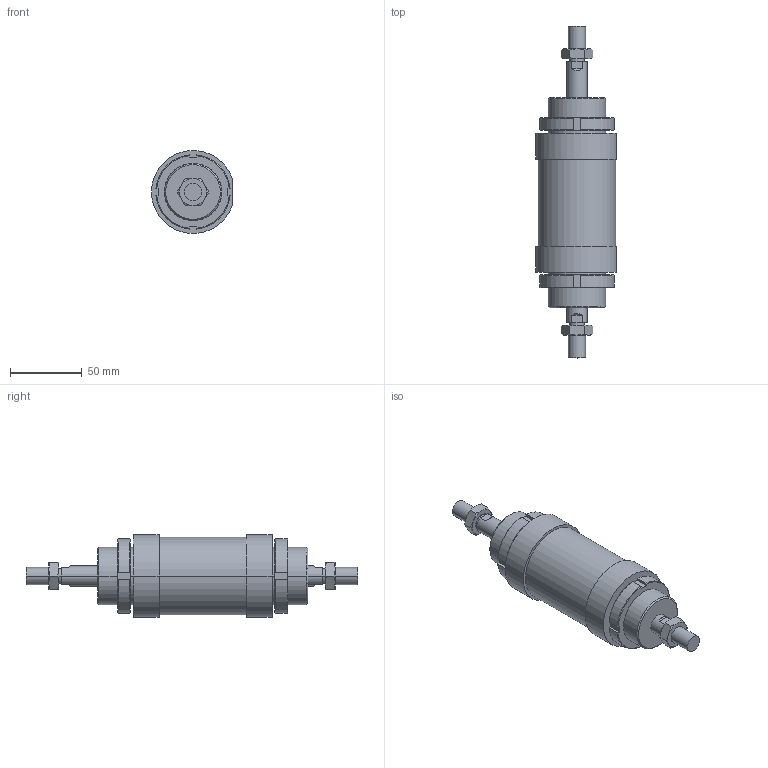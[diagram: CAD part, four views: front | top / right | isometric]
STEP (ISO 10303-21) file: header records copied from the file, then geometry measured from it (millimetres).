
FILE_DESCRIPTION((''),'2;1');
FILE_NAME('I:\DOC-EDP\Lib-3d\1200\CILINDRI\1262\1262_50_0015.stp','2003-04-02T19:14:51',('maffial1'),(''),'Autodesk Inventor (R) 6.0','Autodesk Inventor (R) 6.0','');
FILE_SCHEMA(('AUTOMOTIVE_DESIGN { 1 0 10303 214 1 1 1 1 }'));
Length unit declared in the file: millimetre
Products named in the file (5): 1262_50_0015; S1262_50_15; C1262_50_15; 1200_50_05; 1200_50_06
Assembly tree (6 placements, depth 2):
  1262_50_0015
    S1262_50_15
    C1262_50_15
    1200_50_05  x2
    1200_50_06  x2
Bounding box: 56.6 x 232 x 57.85 mm (x, y, z)
Volume: 324283.6 mm3; surface area: 57106 mm2
Topology: 6 solids, 6 shells, 182 faces, 424 edges, 264 vertices
Faces by surface type: plane 66, cone 56, cylinder 30, bspline 30
Entity records: 3737 total; most frequent: CARTESIAN_POINT 969, DIRECTION 572, ORIENTED_EDGE 548, EDGE_CURVE 274, AXIS2_PLACEMENT_3D 227, VERTEX_POINT 172, EDGE_LOOP 136, FACE_OUTER_BOUND 120
